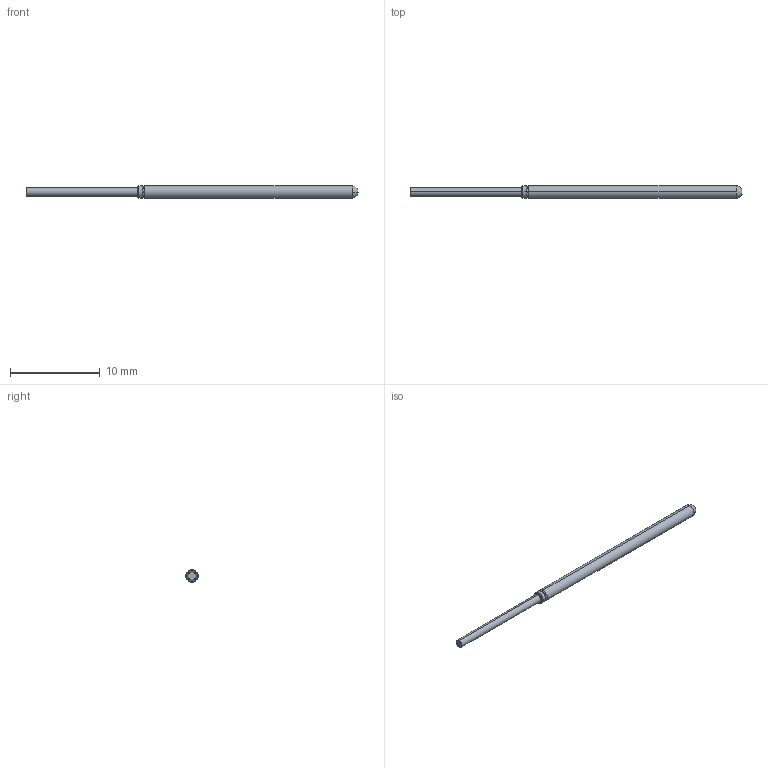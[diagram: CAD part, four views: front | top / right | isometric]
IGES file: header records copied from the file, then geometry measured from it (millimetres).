
Start section: SolidWorks IGES file using analytic representation for surfaces
Global section: file name: Z:\probe solid model mockups\Solidworks models\LTP-25\LTP-25Default.IGS; native system: SolidWorks 2006 by SolidWorks Corporation; preprocessor: SolidWorks 2006 by SolidWorks Corporation; author: tsakatani; date: 071214.142847; units: inch
Bounding box: 37.08 x 1.37 x 1.37 mm (x, y, z)
Surface area: 143.5 mm2 (no closed solid volume)
Topology: 0 solids, 0 shells, 19 faces, 132 edges, 132 vertices
Faces by surface type: revolution 12, bspline 7
